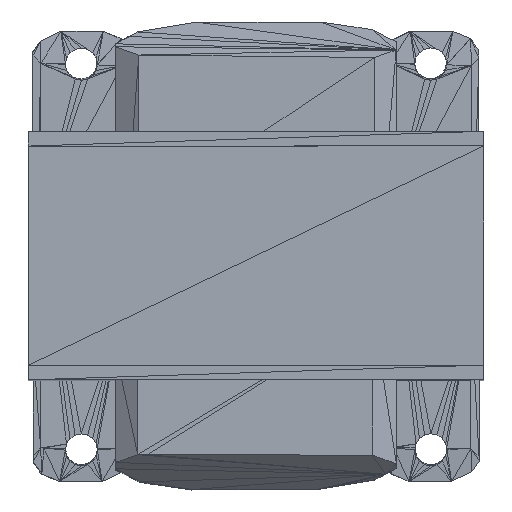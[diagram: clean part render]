
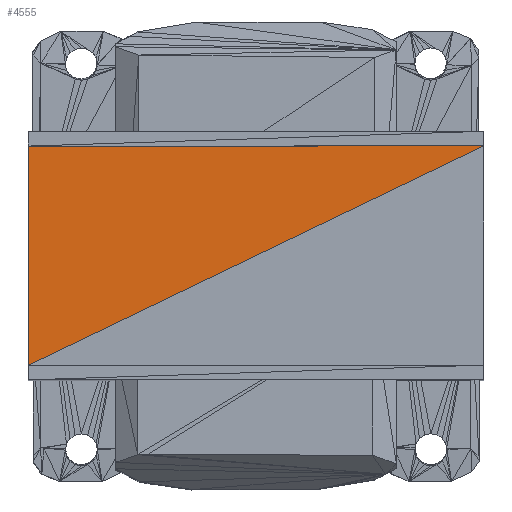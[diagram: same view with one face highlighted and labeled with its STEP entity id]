
A CAD part, top view. The second image highlights one B-rep face of the part: STEP entity #4555.
In plain terms, the highlighted planar face has unit normal (0, 0, 1).
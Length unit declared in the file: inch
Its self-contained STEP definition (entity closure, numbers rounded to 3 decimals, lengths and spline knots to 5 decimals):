
#4378=CARTESIAN_POINT('',(-1.94954,-0.93907,4.45481));
#4379=VERTEX_POINT('',#4378);
#4424=CARTESIAN_POINT('',(1.94954,0.93725,4.45519));
#4425=VERTEX_POINT('',#4424);
#4463=CARTESIAN_POINT('',(-1.95046,0.93593,4.45519));
#4464=VERTEX_POINT('',#4463);
#4472=CARTESIAN_POINT('',(-1.94954,-0.93907,4.45481));
#4473=DIRECTION('',(0.,1.,0.));
#4474=VECTOR('',#4473,1.875);
#4475=LINE('',#4472,#4474);
#4476=EDGE_CURVE('',#4379,#4464,#4475,.T.);
#4502=CARTESIAN_POINT('',(-1.95046,0.93593,4.45519));
#4503=DIRECTION('',(1.,0.,0.));
#4504=VECTOR('',#4503,3.9);
#4505=LINE('',#4502,#4504);
#4506=EDGE_CURVE('',#4464,#4425,#4505,.T.);
#4534=CARTESIAN_POINT('',(-1.94954,-0.93907,4.45481));
#4535=DIRECTION('',(0.901,0.434,0.));
#4536=VECTOR('',#4535,4.32706);
#4537=LINE('',#4534,#4536);
#4538=EDGE_CURVE('',#4379,#4425,#4537,.T.);
#4545=CARTESIAN_POINT('',(-1.95046,0.93593,4.45519));
#4546=DIRECTION('',(0.,0.,1.));
#4547=DIRECTION('',(1.,0.,0.));
#4548=AXIS2_PLACEMENT_3D('',#4545,#4546,#4547);
#4549=PLANE('',#4548);
#4550=ORIENTED_EDGE('',*,*,#4476,.F.);
#4551=ORIENTED_EDGE('',*,*,#4538,.T.);
#4552=ORIENTED_EDGE('',*,*,#4506,.F.);
#4553=EDGE_LOOP('',(#4550,#4551,#4552));
#4554=FACE_BOUND('',#4553,.T.);
#4555=ADVANCED_FACE('',(#4554),#4549,.T.);
